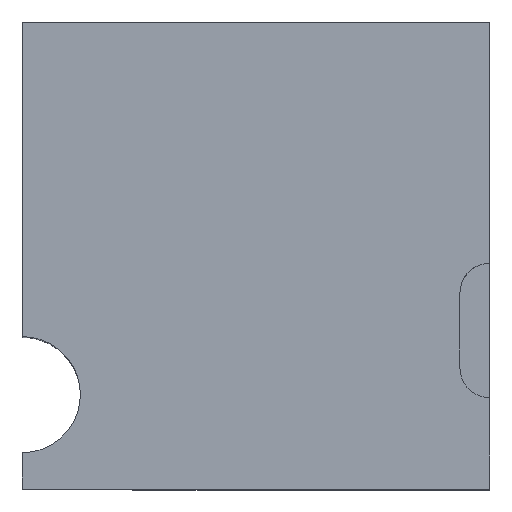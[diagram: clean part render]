
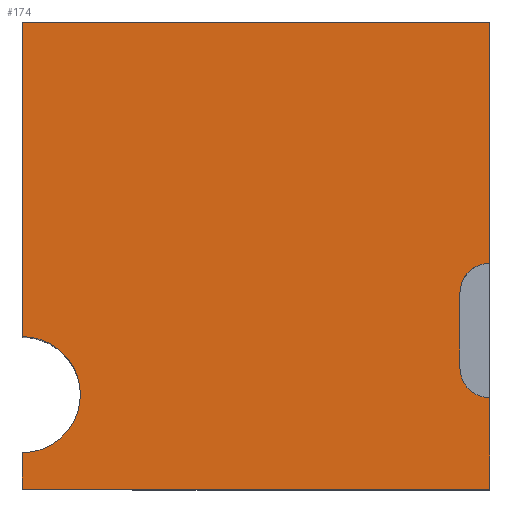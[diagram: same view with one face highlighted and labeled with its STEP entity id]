
A CAD part, top view. The second image highlights one B-rep face of the part: STEP entity #174.
In plain terms, the highlighted planar face has unit normal (0, 0, 1).
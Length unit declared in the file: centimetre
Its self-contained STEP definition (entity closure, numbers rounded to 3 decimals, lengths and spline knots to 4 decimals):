
#9 = AXIS2_PLACEMENT_3D ( 'NONE', #101, #1195, #474 ) ;
#14 = CARTESIAN_POINT ( 'NONE',  ( 1000., 1000., 1000. ) ) ;
#22 = ORIENTED_EDGE ( 'NONE', *, *, #898, .T. ) ;
#26 = VERTEX_POINT ( 'NONE', #548 ) ;
#40 = CARTESIAN_POINT ( 'NONE',  ( 1000., 195.8672, 1000. ) ) ;
#45 = ORIENTED_EDGE ( 'NONE', *, *, #993, .F. ) ;
#71 = VECTOR ( 'NONE', #731, 100. ) ;
#73 = ORIENTED_EDGE ( 'NONE', *, *, #273, .F. ) ;
#89 = DIRECTION ( 'NONE',  ( -1., 0., 0. ) ) ;
#91 = EDGE_CURVE ( 'NONE', #644, #555, #816, .T. ) ;
#92 = CARTESIAN_POINT ( 'NONE',  ( 0., 78.2529, 1000. ) ) ;
#101 = CARTESIAN_POINT ( 'NONE',  ( 0., 0., 1000. ) ) ;
#130 = LINE ( 'NONE', #873, #870 ) ;
#140 = EDGE_CURVE ( 'NONE', #253, #597, #553, .T. ) ;
#154 = VECTOR ( 'NONE', #724, 100. ) ;
#158 = CARTESIAN_POINT ( 'NONE',  ( 0., 1000., 1000. ) ) ;
#173 = CIRCLE ( 'NONE', #969, 124.1661 ) ;
#174 = ADVANCED_FACE ( 'NONE', ( #660 ), #270, .T. ) ;
#204 = CARTESIAN_POINT ( 'NONE',  ( 0., 1000., 1000. ) ) ;
#207 = VERTEX_POINT ( 'NONE', #14 ) ;
#229 = DIRECTION ( 'NONE',  ( 0., 0., 1. ) ) ;
#230 = EDGE_CURVE ( 'NONE', #359, #26, #740, .T. ) ;
#253 = VERTEX_POINT ( 'NONE', #989 ) ;
#270 = PLANE ( 'NONE',  #9 ) ;
#273 = EDGE_CURVE ( 'NONE', #26, #1022, #173, .T. ) ;
#293 = CARTESIAN_POINT ( 'NONE',  ( 936.5743, 259.2929, 1000. ) ) ;
#330 = CARTESIAN_POINT ( 'NONE',  ( 0., 1000., 1000. ) ) ;
#342 = CARTESIAN_POINT ( 'NONE',  ( 0., 202.419, 1000. ) ) ;
#359 = VERTEX_POINT ( 'NONE', #92 ) ;
#368 = CIRCLE ( 'NONE', #1019, 63.4257 ) ;
#385 = ORIENTED_EDGE ( 'NONE', *, *, #820, .T. ) ;
#388 = DIRECTION ( 'NONE',  ( 0., 1., 0. ) ) ;
#403 = ORIENTED_EDGE ( 'NONE', *, *, #966, .T. ) ;
#406 = ORIENTED_EDGE ( 'NONE', *, *, #91, .T. ) ;
#420 = CARTESIAN_POINT ( 'NONE',  ( 0., 326.5851, 1000. ) ) ;
#427 = VERTEX_POINT ( 'NONE', #158 ) ;
#436 = CARTESIAN_POINT ( 'NONE',  ( 0., 1000., 1000. ) ) ;
#441 = LINE ( 'NONE', #436, #1183 ) ;
#442 = CARTESIAN_POINT ( 'NONE',  ( 1000., 1000., 1000. ) ) ;
#457 = DIRECTION ( 'NONE',  ( 0., 0., 1. ) ) ;
#460 = EDGE_CURVE ( 'NONE', #359, #961, #977, .T. ) ;
#472 = CARTESIAN_POINT ( 'NONE',  ( 936.5743, 259.2929, 1000. ) ) ;
#474 = DIRECTION ( 'NONE',  ( 1., 0., 0. ) ) ;
#494 = DIRECTION ( 'NONE',  ( -1., 0., 0. ) ) ;
#548 = CARTESIAN_POINT ( 'NONE',  ( 124.1661, 202.419, 1000. ) ) ;
#553 = LINE ( 'NONE', #293, #1047 ) ;
#555 = VERTEX_POINT ( 'NONE', #40 ) ;
#574 = CARTESIAN_POINT ( 'NONE',  ( 1000., 420.2355, 1000. ) ) ;
#575 = ORIENTED_EDGE ( 'NONE', *, *, #230, .F. ) ;
#582 = ORIENTED_EDGE ( 'NONE', *, *, #1044, .T. ) ;
#587 = ORIENTED_EDGE ( 'NONE', *, *, #662, .F. ) ;
#597 = VERTEX_POINT ( 'NONE', #472 ) ;
#602 = CARTESIAN_POINT ( 'NONE',  ( 0., 202.419, 1000. ) ) ;
#610 = DIRECTION ( 'NONE',  ( 1., 0., 0. ) ) ;
#617 = DIRECTION ( 'NONE',  ( 0., 0., 1. ) ) ;
#623 = AXIS2_PLACEMENT_3D ( 'NONE', #342, #617, #720 ) ;
#625 = AXIS2_PLACEMENT_3D ( 'NONE', #574, #457, #739 ) ;
#640 = CARTESIAN_POINT ( 'NONE',  ( 1000., 0., 1000. ) ) ;
#644 = VERTEX_POINT ( 'NONE', #640 ) ;
#660 = FACE_OUTER_BOUND ( 'NONE', #746, .T. ) ;
#662 = EDGE_CURVE ( 'NONE', #597, #555, #368, .T. ) ;
#678 = VECTOR ( 'NONE', #388, 100. ) ;
#703 = DIRECTION ( 'NONE',  ( 1., 0., 0. ) ) ;
#709 = CARTESIAN_POINT ( 'NONE',  ( 1000., 483.6612, 1000. ) ) ;
#720 = DIRECTION ( 'NONE',  ( 1., 0., 0. ) ) ;
#724 = DIRECTION ( 'NONE',  ( 0., -1., 0. ) ) ;
#731 = DIRECTION ( 'NONE',  ( 0., 1., 0. ) ) ;
#739 = DIRECTION ( 'NONE',  ( 1., 0., 0. ) ) ;
#740 = CIRCLE ( 'NONE', #623, 124.1661 ) ;
#746 = EDGE_LOOP ( 'NONE', ( #587, #952, #45, #22, #403, #385, #73, #575, #1043, #582, #406 ) ) ;
#770 = DIRECTION ( 'NONE',  ( 0., -1., 0. ) ) ;
#809 = DIRECTION ( 'NONE',  ( 0., -1., 0. ) ) ;
#816 = LINE ( 'NONE', #442, #71 ) ;
#820 = EDGE_CURVE ( 'NONE', #427, #1022, #441, .T. ) ;
#821 = CARTESIAN_POINT ( 'NONE',  ( 0., 0., 1000. ) ) ;
#837 = CARTESIAN_POINT ( 'NONE',  ( 1000., 1000., 1000. ) ) ;
#870 = VECTOR ( 'NONE', #703, 100. ) ;
#873 = CARTESIAN_POINT ( 'NONE',  ( 0., 0., 1000. ) ) ;
#898 = EDGE_CURVE ( 'NONE', #1010, #207, #1042, .T. ) ;
#952 = ORIENTED_EDGE ( 'NONE', *, *, #140, .F. ) ;
#961 = VERTEX_POINT ( 'NONE', #821 ) ;
#966 = EDGE_CURVE ( 'NONE', #207, #427, #1116, .T. ) ;
#969 = AXIS2_PLACEMENT_3D ( 'NONE', #602, #229, #610 ) ;
#977 = LINE ( 'NONE', #330, #154 ) ;
#989 = CARTESIAN_POINT ( 'NONE',  ( 936.5743, 420.2355, 1000. ) ) ;
#993 = EDGE_CURVE ( 'NONE', #1010, #253, #1091, .T. ) ;
#1010 = VERTEX_POINT ( 'NONE', #709 ) ;
#1019 = AXIS2_PLACEMENT_3D ( 'NONE', #1108, #1027, #89 ) ;
#1022 = VERTEX_POINT ( 'NONE', #420 ) ;
#1027 = DIRECTION ( 'NONE',  ( 0., 0., 1. ) ) ;
#1042 = LINE ( 'NONE', #837, #678 ) ;
#1043 = ORIENTED_EDGE ( 'NONE', *, *, #460, .T. ) ;
#1044 = EDGE_CURVE ( 'NONE', #961, #644, #130, .T. ) ;
#1047 = VECTOR ( 'NONE', #770, 100. ) ;
#1091 = CIRCLE ( 'NONE', #625, 63.4257 ) ;
#1108 = CARTESIAN_POINT ( 'NONE',  ( 1000., 259.2929, 1000. ) ) ;
#1116 = LINE ( 'NONE', #204, #1127 ) ;
#1127 = VECTOR ( 'NONE', #494, 100. ) ;
#1183 = VECTOR ( 'NONE', #809, 100. ) ;
#1195 = DIRECTION ( 'NONE',  ( 0., 0., 1. ) ) ;
